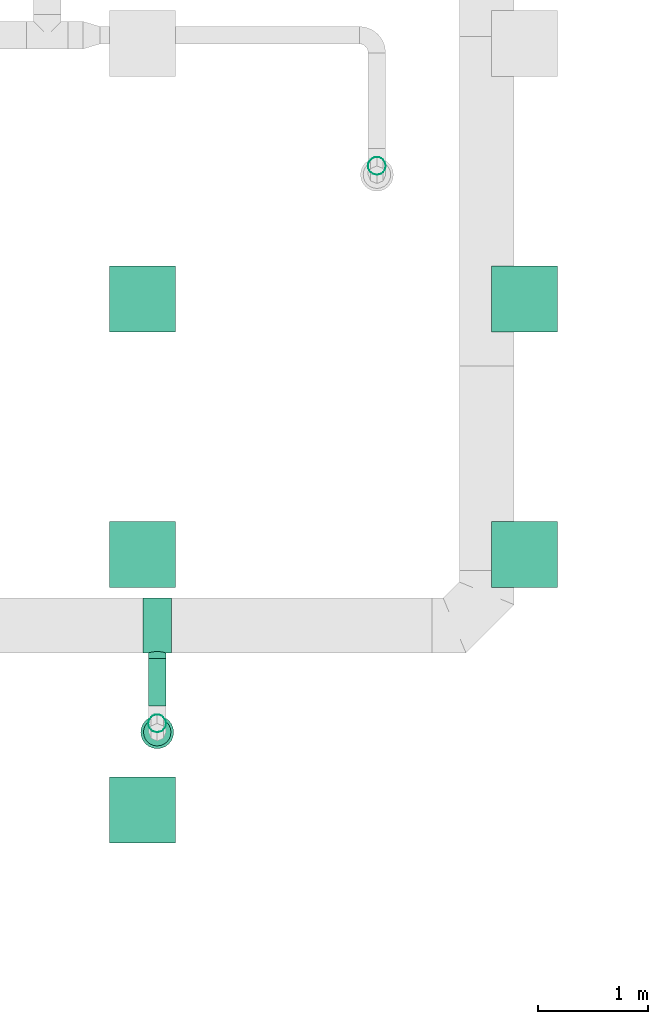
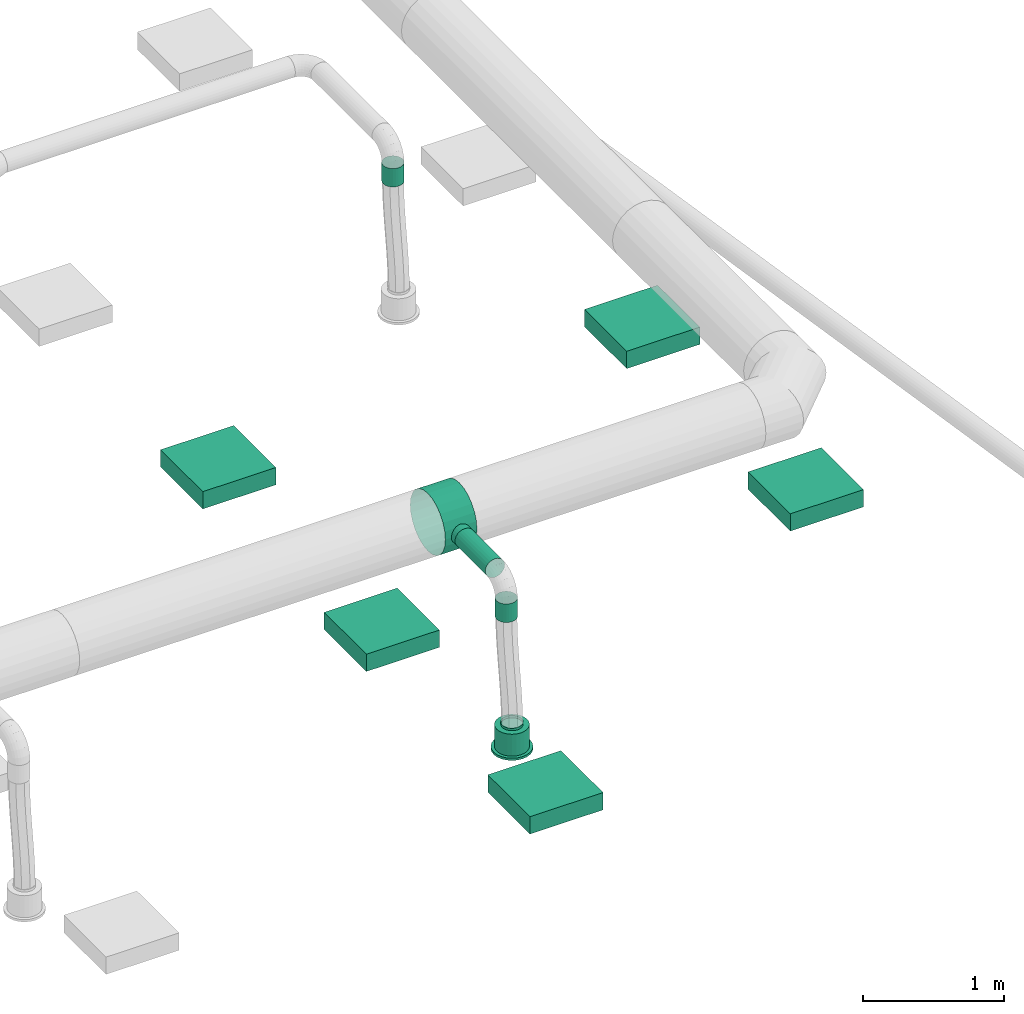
# One storey, part 182 of 374: 5 distribution elements, 3 flow segments, 1 flow fitting, 1 flow terminal.
"""IFC2X3 building model written with IfcOpenShell, lengths in metres."""

from ifc_helpers import new_model, si_unit, direction, frame, frame_2d, origin, place, context, subcontext, project, spatial, rectangle, extrude, open_shell, surface_model, source, transform, mapped, element, save


model = new_model("IFC2X3")

# Units and contexts
model_context = context("Model", 3, precision=1e-05, world=origin(), true_north=direction((-0.4480736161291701, 0.8939966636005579)))
body_context = subcontext(model_context, "Body", "Model", "MODEL_VIEW")
ifc_project = project(units=[si_unit("LENGTHUNIT", "METRE"), si_unit("AREAUNIT", "SQUARE_METRE"), si_unit("VOLUMEUNIT", "CUBIC_METRE"), si_unit("PLANEANGLEUNIT", "RADIAN"), si_unit("THERMODYNAMICTEMPERATUREUNIT", "KELVIN"), si_unit("MASSUNIT", "GRAM", prefix="KILO"), si_unit("TIMEUNIT", "SECOND")], contexts=[model_context])

# Site, building, storey
site_placement = place(None, origin())
site = spatial("IfcSite", under=ifc_project, at=site_placement, Name="Site 1", CompositionType="ELEMENT")
building_placement = place(site_placement, origin())
building = spatial("IfcBuilding", under=site, at=building_placement, Name="Undefined", CompositionType="ELEMENT")
storey_placement = place(building_placement, origin())
storey = spatial("IfcBuildingStorey", under=building, at=storey_placement, Name="Rez de chauss\x8ee", CompositionType="ELEMENT", Elevation=0.0)

# Flow terminal
shared_shape_1 = source(origin(), body_context, "Body", "SurfaceModel", [
    surface_model("IfcFaceBasedSurfaceModel", [(0.0, 0.0, 0.0), (0.03915785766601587, 0.0, 0.0), (0.03915785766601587, 0.020000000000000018, 0.0), (3.552713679e-15, 0.020000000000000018, 0.0), (0.07698144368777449, 0.0, -0.010134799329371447), (0.07698144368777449, 0.020000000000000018, -0.010134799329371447), (0.11089314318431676, 0.0, -0.02971372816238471), (0.11089314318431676, 0.020000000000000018, -0.02971372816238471), (0.13858192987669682, 0.0, -0.05740251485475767), (0.13858192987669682, 0.020000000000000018, -0.05740251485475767), (0.15816085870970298, 0.0, -0.09131421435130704), (0.15816085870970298, 0.020000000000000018, -0.09131421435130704), (0.16829565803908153, 0.0, -0.12913780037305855), (0.16829565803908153, 0.020000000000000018, -0.12913780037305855), (0.16829565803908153, 0.0, -0.16829565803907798), (0.16829565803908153, 0.020000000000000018, -0.16829565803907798), (0.15816085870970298, 0.0, -0.20611924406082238), (0.15816085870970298, 0.020000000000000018, -0.20611924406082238), (0.13858192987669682, 0.0, -0.24003094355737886), (0.13858192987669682, 0.020000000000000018, -0.24003094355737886), (0.11089314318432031, 0.0, -0.2677197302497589), (0.11089314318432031, 0.020000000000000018, -0.2677197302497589), (0.07698144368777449, 0.0, -0.2872986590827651), (0.07698144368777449, 0.020000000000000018, -0.2872986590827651), (0.039157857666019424, 0.0, -0.29743345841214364), (0.039157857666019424, 0.020000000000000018, -0.29743345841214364), (3.552713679e-15, 0.0, -0.29743345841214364), (3.552713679e-15, 0.020000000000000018, -0.29743345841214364), (-0.03782358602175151, 0.0, -0.2872986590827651), (-0.03782358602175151, 0.020000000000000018, -0.2872986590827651), (-0.07173528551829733, 0.0, -0.2677197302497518), (-0.07173528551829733, 0.020000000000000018, -0.2677197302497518), (-0.0994240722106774, 0.0, -0.24003094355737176), (-0.0994240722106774, 0.020000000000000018, -0.24003094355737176), (-0.11900300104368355, 0.0, -0.2061192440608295), (-0.11900300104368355, 0.020000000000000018, -0.2061192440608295), (-0.1291378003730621, 0.0, -0.16829565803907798), (-0.1291378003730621, 0.020000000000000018, -0.16829565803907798), (-0.1291378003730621, 0.0, -0.12913780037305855), (-0.1291378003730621, 0.020000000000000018, -0.12913780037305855), (-0.11900300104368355, 0.0, -0.09131421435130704), (-0.11900300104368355, 0.020000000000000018, -0.09131421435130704), (-0.0994240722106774, 0.0, -0.05740251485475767), (-0.0994240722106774, 0.020000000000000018, -0.05740251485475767), (-0.07173528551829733, 0.0, -0.029713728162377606), (-0.07173528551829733, 0.020000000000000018, -0.029713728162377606), (-0.03782358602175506, 0.0, -0.010134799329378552), (-0.03782358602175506, 0.020000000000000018, -0.010134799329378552), (0.019578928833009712, 0.0, -0.14871672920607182), (0.019578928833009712, 0.020000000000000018, -0.14871672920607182), (0.003263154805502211, 0.020000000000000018, -0.02478612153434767), (0.035894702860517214, 0.020000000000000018, -0.02478612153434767), (0.035894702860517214, 0.20999999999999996, -0.02478612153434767), (0.003263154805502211, 0.20999999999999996, -0.02478612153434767), (0.06741435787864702, 0.020000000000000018, -0.033231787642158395), (0.06741435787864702, 0.20999999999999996, -0.033231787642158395), (0.0956741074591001, 0.020000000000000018, -0.04954756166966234), (0.0956741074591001, 0.20999999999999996, -0.04954756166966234), (0.11874809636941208, 0.020000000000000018, -0.07262155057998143), (0.11874809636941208, 0.20999999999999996, -0.07262155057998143), (0.13506387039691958, 0.020000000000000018, -0.10088130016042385), (0.13506387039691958, 0.20999999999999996, -0.10088130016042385), (0.1435095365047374, 0.020000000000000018, -0.13240095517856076), (0.1435095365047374, 0.20999999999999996, -0.13240095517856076), (0.1435095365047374, 0.020000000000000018, -0.16503250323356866), (0.1435095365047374, 0.20999999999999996, -0.16503250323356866), (0.13506387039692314, 0.020000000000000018, -0.19655215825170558), (0.13506387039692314, 0.20999999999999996, -0.19655215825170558), (0.11874809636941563, 0.020000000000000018, -0.2248119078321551), (0.11874809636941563, 0.20999999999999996, -0.2248119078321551), (0.09567410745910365, 0.020000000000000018, -0.24788589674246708), (0.09567410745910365, 0.20999999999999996, -0.24788589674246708), (0.06741435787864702, 0.020000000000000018, -0.26420167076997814), (0.06741435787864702, 0.20999999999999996, -0.26420167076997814), (0.035894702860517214, 0.020000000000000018, -0.27264733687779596), (0.035894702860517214, 0.20999999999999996, -0.27264733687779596), (0.0032631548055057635, 0.020000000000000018, -0.27264733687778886), (0.0032631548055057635, 0.20999999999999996, -0.27264733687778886), (-0.028256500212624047, 0.020000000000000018, -0.26420167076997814), (-0.028256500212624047, 0.20999999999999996, -0.26420167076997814), (-0.05651624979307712, 0.020000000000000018, -0.2478858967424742), (-0.05651624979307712, 0.20999999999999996, -0.2478858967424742), (-0.07959023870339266, 0.020000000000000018, -0.2248119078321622), (-0.07959023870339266, 0.20999999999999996, -0.2248119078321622), (-0.09590601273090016, 0.020000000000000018, -0.19655215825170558), (-0.09590601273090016, 0.20999999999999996, -0.19655215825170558), (-0.10435167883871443, 0.020000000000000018, -0.16503250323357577), (-0.10435167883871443, 0.20999999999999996, -0.16503250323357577), (-0.10435167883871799, 0.020000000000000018, -0.13240095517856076), (-0.10435167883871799, 0.20999999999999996, -0.13240095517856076), (-0.09590601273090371, 0.020000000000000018, -0.10088130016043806), (-0.09590601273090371, 0.20999999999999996, -0.10088130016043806), (-0.07959023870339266, 0.020000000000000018, -0.07262155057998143), (-0.07959023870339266, 0.20999999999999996, -0.07262155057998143), (-0.056516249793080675, 0.020000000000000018, -0.04954756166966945), (-0.056516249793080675, 0.20999999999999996, -0.04954756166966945), (-0.028256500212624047, 0.020000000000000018, -0.033231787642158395), (-0.028256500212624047, 0.20999999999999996, -0.033231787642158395), (0.019578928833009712, 0.20999999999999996, -0.14871672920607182), (0.009136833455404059, 0.20999999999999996, -0.06940114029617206), (0.030021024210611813, 0.20999999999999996, -0.06940114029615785), (0.030021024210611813, 0.22999999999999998, -0.06940114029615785), (0.009136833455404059, 0.22999999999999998, -0.06940114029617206), (0.05019360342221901, 0.20999999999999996, -0.07480636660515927), (0.05019360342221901, 0.22999999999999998, -0.07480636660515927), (0.06827984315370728, 0.20999999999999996, -0.08524846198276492), (0.06827984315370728, 0.22999999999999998, -0.08524846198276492), (0.0830471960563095, 0.20999999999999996, -0.10001581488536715), (0.0830471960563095, 0.22999999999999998, -0.10001581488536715), (0.0934892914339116, 0.20999999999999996, -0.11810205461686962), (0.0934892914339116, 0.22999999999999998, -0.11810205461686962), (0.09889451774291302, 0.20999999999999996, -0.13827463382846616), (0.09889451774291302, 0.22999999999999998, -0.13827463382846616), (0.09889451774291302, 0.20999999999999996, -0.15915882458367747), (0.09889451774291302, 0.22999999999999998, -0.15915882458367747), (0.09348929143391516, 0.20999999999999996, -0.179331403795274), (0.09348929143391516, 0.22999999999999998, -0.179331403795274), (0.0830471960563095, 0.20999999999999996, -0.19741764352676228), (0.0830471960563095, 0.22999999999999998, -0.19741764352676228), (0.06827984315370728, 0.20999999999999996, -0.2121849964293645), (0.06827984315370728, 0.22999999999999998, -0.2121849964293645), (0.05019360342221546, 0.20999999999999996, -0.22262709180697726), (0.05019360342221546, 0.22999999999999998, -0.22262709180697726), (0.030021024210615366, 0.20999999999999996, -0.22803231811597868), (0.030021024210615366, 0.22999999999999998, -0.22803231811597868), (0.009136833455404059, 0.20999999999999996, -0.22803231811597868), (0.009136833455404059, 0.22999999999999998, -0.22803231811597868), (-0.011035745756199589, 0.20999999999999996, -0.22262709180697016), (-0.011035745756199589, 0.22999999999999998, -0.22262709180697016), (-0.0291219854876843, 0.20999999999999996, -0.2121849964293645), (-0.0291219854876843, 0.22999999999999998, -0.2121849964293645), (-0.043889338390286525, 0.20999999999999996, -0.19741764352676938), (-0.043889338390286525, 0.22999999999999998, -0.19741764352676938), (-0.05433143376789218, 0.20999999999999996, -0.17933140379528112), (-0.05433143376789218, 0.22999999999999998, -0.17933140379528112), (-0.05973666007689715, 0.20999999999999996, -0.15915882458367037), (-0.05973666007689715, 0.22999999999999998, -0.15915882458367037), (-0.0597366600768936, 0.20999999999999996, -0.13827463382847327), (-0.0597366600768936, 0.22999999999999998, -0.13827463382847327), (-0.05433143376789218, 0.20999999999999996, -0.11810205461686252), (-0.05433143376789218, 0.22999999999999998, -0.11810205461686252), (-0.043889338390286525, 0.20999999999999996, -0.10001581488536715), (-0.043889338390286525, 0.22999999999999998, -0.10001581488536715), (-0.02912198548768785, 0.20999999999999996, -0.08524846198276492), (-0.02912198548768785, 0.22999999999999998, -0.08524846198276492), (-0.011035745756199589, 0.20999999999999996, -0.07480636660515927), (-0.011035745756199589, 0.22999999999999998, -0.07480636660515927)], [open_shell([[[0, 1, 2, 3]], [[1, 4, 5, 2]], [[4, 6, 7, 5]], [[6, 8, 9, 7]], [[8, 10, 11, 9]], [[10, 12, 13, 11]], [[12, 14, 15, 13]], [[14, 16, 17, 15]], [[16, 18, 19, 17]], [[18, 20, 21, 19]], [[20, 22, 23, 21]], [[22, 24, 25, 23]], [[24, 26, 27, 25]], [[26, 28, 29, 27]], [[28, 30, 31, 29]], [[30, 32, 33, 31]], [[32, 34, 35, 33]], [[34, 36, 37, 35]], [[36, 38, 39, 37]], [[38, 40, 41, 39]], [[40, 42, 43, 41]], [[42, 44, 45, 43]], [[44, 46, 47, 45]], [[46, 0, 3, 47]], [[48, 1, 0]], [[48, 4, 1]], [[48, 6, 4]], [[48, 8, 6]], [[48, 10, 8]], [[48, 12, 10]], [[48, 14, 12]], [[48, 16, 14]], [[48, 18, 16]], [[48, 20, 18]], [[48, 22, 20]], [[48, 24, 22]], [[48, 26, 24]], [[48, 28, 26]], [[48, 30, 28]], [[48, 32, 30]], [[48, 34, 32]], [[48, 36, 34]], [[48, 38, 36]], [[48, 40, 38]], [[48, 42, 40]], [[48, 44, 42]], [[48, 46, 44]], [[48, 0, 46]], [[49, 47, 3]], [[49, 45, 47]], [[49, 43, 45]], [[49, 41, 43]], [[49, 39, 41]], [[49, 37, 39]], [[49, 35, 37]], [[49, 33, 35]], [[49, 31, 33]], [[49, 29, 31]], [[49, 27, 29]], [[49, 25, 27]], [[49, 23, 25]], [[49, 21, 23]], [[49, 19, 21]], [[49, 17, 19]], [[49, 15, 17]], [[49, 13, 15]], [[49, 11, 13]], [[49, 9, 11]], [[49, 7, 9]], [[49, 5, 7]], [[49, 2, 5]], [[49, 3, 2]], [[50, 51, 52, 53]], [[51, 54, 55, 52]], [[54, 56, 57, 55]], [[56, 58, 59, 57]], [[58, 60, 61, 59]], [[60, 62, 63, 61]], [[62, 64, 65, 63]], [[64, 66, 67, 65]], [[66, 68, 69, 67]], [[68, 70, 71, 69]], [[70, 72, 73, 71]], [[72, 74, 75, 73]], [[74, 76, 77, 75]], [[76, 78, 79, 77]], [[78, 80, 81, 79]], [[80, 82, 83, 81]], [[82, 84, 85, 83]], [[84, 86, 87, 85]], [[86, 88, 89, 87]], [[88, 90, 91, 89]], [[90, 92, 93, 91]], [[92, 94, 95, 93]], [[94, 96, 97, 95]], [[96, 50, 53, 97]], [[49, 51, 50]], [[49, 54, 51]], [[49, 56, 54]], [[49, 58, 56]], [[49, 60, 58]], [[49, 62, 60]], [[49, 64, 62]], [[49, 66, 64]], [[49, 68, 66]], [[49, 70, 68]], [[49, 72, 70]], [[49, 74, 72]], [[49, 76, 74]], [[49, 78, 76]], [[49, 80, 78]], [[49, 82, 80]], [[49, 84, 82]], [[49, 86, 84]], [[49, 88, 86]], [[49, 90, 88]], [[49, 92, 90]], [[49, 94, 92]], [[49, 96, 94]], [[49, 50, 96]], [[98, 97, 53]], [[98, 95, 97]], [[98, 93, 95]], [[98, 91, 93]], [[98, 89, 91]], [[98, 87, 89]], [[98, 85, 87]], [[98, 83, 85]], [[98, 81, 83]], [[98, 79, 81]], [[98, 77, 79]], [[98, 75, 77]], [[98, 73, 75]], [[98, 71, 73]], [[98, 69, 71]], [[98, 67, 69]], [[98, 65, 67]], [[98, 63, 65]], [[98, 61, 63]], [[98, 59, 61]], [[98, 57, 59]], [[98, 55, 57]], [[98, 52, 55]], [[98, 53, 52]], [[99, 100, 101, 102]], [[100, 103, 104, 101]], [[103, 105, 106, 104]], [[105, 107, 108, 106]], [[107, 109, 110, 108]], [[109, 111, 112, 110]], [[111, 113, 114, 112]], [[113, 115, 116, 114]], [[115, 117, 118, 116]], [[117, 119, 120, 118]], [[119, 121, 122, 120]], [[121, 123, 124, 122]], [[123, 125, 126, 124]], [[125, 127, 128, 126]], [[127, 129, 130, 128]], [[129, 131, 132, 130]], [[131, 133, 134, 132]], [[133, 135, 136, 134]], [[135, 137, 138, 136]], [[137, 139, 140, 138]], [[139, 141, 142, 140]], [[141, 143, 144, 142]], [[143, 145, 146, 144]], [[145, 99, 102, 146]]])]),
])
flow_terminal_placement = place(storey_placement, origin())
element("IfcFlowTerminal", 1, at=flow_terminal_placement, inside=storey, Name="Air diffuseur - bouche", ObjectType="Air diffuseur - bouche", context=body_context, shape_type="MappedRepresentation", body=[
    mapped(shared_shape_1, transform((62.290001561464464, 2.0299997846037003, 2.38), x_axis=(-0.9914448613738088, -0.13052619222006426, 0.0), y_axis=(0.0, 0.0, 1.0), z_axis=(-0.13052619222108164, 0.9914448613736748, 0.0))),
])

# Flow fitting
shared_shape_2 = source(origin(), body_context, "Body", "SurfaceModel", [
    surface_model("IfcFaceBasedSurfaceModel", [(0.0, 0.0652630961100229, -3.552713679e-15), (0.0, 0.0, 0.0), (0.2599999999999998, -7.105427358e-15, 0.0), (0.259999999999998, 0.06526309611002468, 0.0), (0.0, -0.06303931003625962, -0.01689133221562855), (0.259999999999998, -0.06303931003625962, -0.016891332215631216), (0.0, -0.11955880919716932, -0.049522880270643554), (0.259999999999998, -0.11955880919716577, -0.04952288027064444), (0.0, -0.1657067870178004, -0.09567085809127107), (0.259999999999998, -0.16570678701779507, -0.09567085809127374), (0.0, -0.1983383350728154, -0.15219035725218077), (0.259999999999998, -0.19833833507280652, -0.15219035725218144), (0.0, -0.2152296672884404, -0.2152296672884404), (0.259999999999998, -0.21522966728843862, -0.21522966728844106), (0.0, -0.2152296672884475, -0.28049276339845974), (0.259999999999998, -0.21522966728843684, -0.2804927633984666), (0.0, -0.1983383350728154, -0.3435320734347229), (0.259999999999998, -0.19833833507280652, -0.34353207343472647), (0.0, -0.1657067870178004, -0.4000515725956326), (0.259999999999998, -0.1657067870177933, -0.4000515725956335), (0.0, -0.11955880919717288, -0.44619955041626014), (0.259999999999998, -0.11955880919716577, -0.4461995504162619), (0.0, -0.06303931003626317, -0.47883109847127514), (0.259999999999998, -0.06303931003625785, -0.4788310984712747), (0.0, -7.105427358e-15, -0.49572243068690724), (0.259999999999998, 1.776356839e-15, -0.49572243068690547), (0.0, 0.0652630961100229, -0.4957224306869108), (0.259999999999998, 0.06526309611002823, -0.49572243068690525), (0.0, 0.12830240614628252, -0.47883109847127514), (0.259999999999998, 0.12830240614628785, -0.4788310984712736), (0.0, 0.18482190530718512, -0.4461995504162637), (0.259999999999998, 0.18482190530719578, -0.4461995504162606), (0.0, 0.2309698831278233, -0.4000515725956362), (0.259999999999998, 0.23096988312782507, -0.4000515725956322), (0.0, 0.26360143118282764, -0.34353207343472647), (0.259999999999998, 0.26360143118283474, -0.3435320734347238), (0.0, 0.2804927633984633, -0.2804927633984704), (0.259999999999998, 0.28049276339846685, -0.28049276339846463), (0.0, 0.28049276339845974, -0.2152296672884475), (0.259999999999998, 0.2804927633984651, -0.21522966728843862), (0.0, 0.2636014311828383, -0.15219035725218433), (0.259999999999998, 0.2636014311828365, -0.15219035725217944), (0.0, 0.2309698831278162, -0.09567085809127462), (0.259999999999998, 0.2309698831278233, -0.09567085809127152), (0.0, 0.18482190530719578, -0.049522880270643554), (0.259999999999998, 0.184821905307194, -0.04952288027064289), (0.0, 0.12830240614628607, -0.016891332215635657), (0.259999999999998, 0.12830240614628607, -0.01689133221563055), (0.21000000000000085, 0.28049276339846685, -0.28049276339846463), (0.2072740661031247, 0.276938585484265, -0.3009090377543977), (0.2072740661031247, 0.32736239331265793, -0.30754745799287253), (0.21000000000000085, 0.33006500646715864, -0.2870190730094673), (0.19928203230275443, 0.27207852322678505, -0.3197301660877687), (0.19928203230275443, 0.3248439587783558, -0.3266768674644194), (0.18656854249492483, 0.2666804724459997, -0.3357310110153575), (0.18656854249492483, 0.3226813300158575, -0.34310366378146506), (0.1700000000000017, 0.26174165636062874, -0.3479039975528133), (0.1700000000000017, 0.32102188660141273, -0.3557083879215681), (0.15070552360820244, 0.2582688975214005, -0.35550779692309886), (0.15070552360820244, 0.3199787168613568, -0.36363204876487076), (0.12999999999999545, 0.25701751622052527, -0.3580925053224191), (0.12999999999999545, 0.31962291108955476, -0.3663346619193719), (0.10929447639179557, 0.2582688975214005, -0.35550779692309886), (0.10929447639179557, 0.3199787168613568, -0.36363204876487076), (0.0899999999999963, 0.26174165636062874, -0.3479039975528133), (0.0899999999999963, 0.32102188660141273, -0.3557083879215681), (0.07343145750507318, 0.2666804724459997, -0.3357310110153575), (0.07343145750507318, 0.3226813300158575, -0.34310366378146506), (0.06071796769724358, 0.27207852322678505, -0.3197301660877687), (0.06071796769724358, 0.3248439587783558, -0.3266768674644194), (0.0527259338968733, 0.276938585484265, -0.3009090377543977), (0.0527259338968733, 0.32736239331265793, -0.30754745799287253), (0.04999999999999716, 0.28049276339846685, -0.28049276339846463), (0.04999999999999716, 0.33006500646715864, -0.2870190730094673), (0.0527259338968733, 0.2823438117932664, -0.2598522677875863), (0.0527259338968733, 0.33276761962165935, -0.26649068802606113), (0.06071796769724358, 0.28252061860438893, -0.24041457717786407), (0.06071796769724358, 0.3352860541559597, -0.24736127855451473), (0.07343145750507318, 0.28144782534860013, -0.22356182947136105), (0.07343145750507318, 0.337448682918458, -0.2309344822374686), (0.0899999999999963, 0.2798278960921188, -0.21052536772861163), (0.0899999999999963, 0.33910812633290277, -0.21832975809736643), (0.10929447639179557, 0.27844147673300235, -0.20228184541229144), (0.10929447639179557, 0.3401512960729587, -0.21040609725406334), (0.12999999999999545, 0.277901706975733, -0.19946132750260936), (0.12999999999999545, 0.3405071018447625, -0.20770348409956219), (0.15070552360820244, 0.27844147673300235, -0.20228184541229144), (0.15070552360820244, 0.3401512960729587, -0.21040609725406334), (0.1700000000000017, 0.2798278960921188, -0.21052536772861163), (0.1700000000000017, 0.33910812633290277, -0.21832975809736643), (0.18656854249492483, 0.28144782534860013, -0.22356182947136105), (0.18656854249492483, 0.337448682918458, -0.2309344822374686), (0.19928203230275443, 0.28252061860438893, -0.24041457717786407), (0.19928203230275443, 0.3352860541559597, -0.24736127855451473), (0.2072740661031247, 0.2823438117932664, -0.2598522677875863), (0.2072740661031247, 0.33276761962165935, -0.26649068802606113)], [open_shell([[[0, 1, 2, 3]], [[1, 4, 5, 2]], [[4, 6, 7, 5]], [[6, 8, 9, 7]], [[8, 10, 11, 9]], [[10, 12, 13, 11]], [[12, 14, 15, 13]], [[14, 16, 17, 15]], [[16, 18, 19, 17]], [[18, 20, 21, 19]], [[20, 22, 23, 21]], [[22, 24, 25, 23]], [[24, 26, 27, 25]], [[26, 28, 29, 27]], [[28, 30, 31, 29]], [[30, 32, 33, 31]], [[32, 34, 35, 33]], [[34, 36, 37, 35]], [[36, 38, 39, 37]], [[38, 40, 41, 39]], [[40, 42, 43, 41]], [[42, 44, 45, 43]], [[44, 46, 47, 45]], [[46, 0, 3, 47]], [[48, 49, 50, 51]], [[49, 52, 53, 50]], [[52, 54, 55, 53]], [[54, 56, 57, 55]], [[56, 58, 59, 57]], [[58, 60, 61, 59]], [[60, 62, 63, 61]], [[62, 64, 65, 63]], [[64, 66, 67, 65]], [[66, 68, 69, 67]], [[68, 70, 71, 69]], [[70, 72, 73, 71]], [[72, 74, 75, 73]], [[74, 76, 77, 75]], [[76, 78, 79, 77]], [[78, 80, 81, 79]], [[80, 82, 83, 81]], [[82, 84, 85, 83]], [[84, 86, 87, 85]], [[86, 88, 89, 87]], [[88, 90, 91, 89]], [[90, 92, 93, 91]], [[92, 94, 95, 93]], [[94, 48, 51, 95]]])]),
])
flow_fitting_placement = place(storey_placement, origin())
element("IfcFlowFitting", 2, at=flow_fitting_placement, inside=storey, Name="Pièce en té 90°", ObjectType="Pièce en té 90°", context=body_context, shape_type="MappedRepresentation", body=[
    mapped(shared_shape_2, transform((62.42000156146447, 2.916002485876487, 4.041481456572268), x_axis=(-1.0, 0.0, 0.0), y_axis=(7.266545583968e-12, -0.9914448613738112, 0.13052619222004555), z_axis=(0.0, 0.13052619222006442, 0.9914448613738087))),
])

# Flow segments
shared_shape_3 = source(origin(), body_context, "Body", "SurfaceModel", [
    surface_model("IfcFaceBasedSurfaceModel", [(0.0, 0.020884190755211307, 0.0), (0.0, 0.0, 0.0), (0.16000000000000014, 0.0, -4.4408921e-16), (0.16000000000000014, 0.0208841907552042, -4.4408921e-16), (0.0, -0.020172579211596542, -0.005405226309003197), (0.16000000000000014, -0.020172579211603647, -0.005405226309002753), (0.0, -0.03825881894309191, -0.015847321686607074), (0.16000000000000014, -0.03825881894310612, -0.015847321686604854), (0.0, -0.05302617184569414, -0.0306146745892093), (0.16000000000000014, -0.05302617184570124, -0.03061467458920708), (0.0, -0.06346826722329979, -0.04870091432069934), (0.16000000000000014, -0.0634682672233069, -0.04870091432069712), (0.0, -0.06887349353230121, -0.06887349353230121), (0.16000000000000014, -0.06887349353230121, -0.06887349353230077), (0.0, -0.06887349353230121, -0.08975768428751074), (0.16000000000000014, -0.06887349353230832, -0.08975768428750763), (0.0, -0.06346826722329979, -0.10993026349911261), (0.16000000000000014, -0.0634682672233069, -0.10993026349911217), (0.0, -0.05302617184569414, -0.12801650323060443), (0.16000000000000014, -0.05302617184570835, -0.1280165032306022), (0.0, -0.038258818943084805, -0.14278385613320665), (0.16000000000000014, -0.03825881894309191, -0.14278385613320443), (0.0, -0.020172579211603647, -0.15322595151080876), (0.16000000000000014, -0.020172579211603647, -0.1532259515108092), (0.0, 7.105427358e-15, -0.15863117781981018), (0.16000000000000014, -7.105427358e-15, -0.15863117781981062), (0.0, 0.020884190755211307, -0.15863117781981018), (0.16000000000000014, 0.0208841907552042, -0.15863117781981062), (0.0, 0.04105676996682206, -0.15322595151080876), (0.16000000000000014, 0.04105676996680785, -0.1532259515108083), (0.0, 0.05914300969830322, -0.1427838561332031), (0.16000000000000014, 0.05914300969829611, -0.14278385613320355), (0.0, 0.07391036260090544, -0.12801650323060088), (0.16000000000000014, 0.07391036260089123, -0.1280165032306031), (0.0, 0.0843524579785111, -0.10993026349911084), (0.16000000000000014, 0.08435245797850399, -0.10993026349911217), (0.0, 0.08975768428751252, -0.08975768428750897), (0.16000000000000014, 0.08975768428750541, -0.08975768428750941), (0.0, 0.08975768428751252, -0.06887349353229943), (0.16000000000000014, 0.08975768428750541, -0.06887349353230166), (0.0, 0.0843524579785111, -0.048700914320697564), (0.16000000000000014, 0.08435245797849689, -0.04870091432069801), (0.0, 0.07391036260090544, -0.030614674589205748), (0.16000000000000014, 0.07391036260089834, -0.03061467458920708), (0.0, 0.05914300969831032, -0.015847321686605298), (0.16000000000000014, 0.05914300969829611, -0.01584732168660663), (0.0, 0.04105676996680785, -0.005405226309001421), (0.16000000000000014, 0.04105676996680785, -0.005405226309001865)], [open_shell([[[0, 1, 2, 3]], [[1, 4, 5, 2]], [[4, 6, 7, 5]], [[6, 8, 9, 7]], [[8, 10, 11, 9]], [[10, 12, 13, 11]], [[12, 14, 15, 13]], [[14, 16, 17, 15]], [[16, 18, 19, 17]], [[18, 20, 21, 19]], [[20, 22, 23, 21]], [[22, 24, 25, 23]], [[24, 26, 27, 25]], [[26, 28, 29, 27]], [[28, 30, 31, 29]], [[30, 32, 33, 31]], [[32, 34, 35, 33]], [[34, 36, 37, 35]], [[36, 38, 39, 37]], [[38, 40, 41, 39]], [[40, 42, 43, 41]], [[42, 44, 45, 43]], [[44, 46, 47, 45]], [[46, 0, 3, 47]]])]),
])
flow_segment_1_placement = place(storey_placement, origin())
element("IfcFlowSegment", 3, at=flow_segment_1_placement, inside=storey, Name="Tube", ObjectType="Tube", context=body_context, shape_type="MappedRepresentation", body=[
    mapped(shared_shape_3, transform((64.2693045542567, 7.112272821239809, 3.4800000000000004), x_axis=(0.0, 0.0, 1.0), y_axis=(0.9914448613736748, 0.13052619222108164, 0.0), z_axis=(-0.13052619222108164, 0.9914448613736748, 0.0))),
])
flow_segment_2_placement = place(storey_placement, origin())
element("IfcFlowSegment", 4, at=flow_segment_2_placement, inside=storey, Name="Tube", ObjectType="Tube", context=body_context, shape_type="MappedRepresentation", body=[
    mapped(shared_shape_3, transform((62.269296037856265, 2.0372738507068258, 3.4800000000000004), x_axis=(0.0, 0.0, 1.0), y_axis=(0.9914448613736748, 0.13052619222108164, 0.0), z_axis=(-0.13052619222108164, 0.9914448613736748, 0.0))),
])
shared_shape_4 = source(origin(), body_context, "Body", "SurfaceModel", [
    surface_model("IfcFaceBasedSurfaceModel", [(0.0, 0.020884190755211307, 0.0), (0.0, 0.0, 0.0), (0.4312979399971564, -7.105427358e-15, -8.8817842e-16), (0.4312979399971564, 0.0208841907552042, -8.8817842e-16), (0.0, -0.020172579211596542, -0.005405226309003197), (0.4312979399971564, -0.020172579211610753, -0.005405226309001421), (0.0, -0.03825881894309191, -0.015847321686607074), (0.4312979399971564, -0.03825881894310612, -0.015847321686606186), (0.0, -0.05302617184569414, -0.0306146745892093), (0.4312979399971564, -0.05302617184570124, -0.030614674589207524), (0.0, -0.06346826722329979, -0.04870091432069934), (0.4312979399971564, -0.0634682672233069, -0.04870091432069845), (0.0, -0.06887349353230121, -0.06887349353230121), (0.4312979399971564, -0.06887349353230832, -0.06887349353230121), (0.0, -0.06887349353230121, -0.08975768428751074), (0.4312979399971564, -0.06887349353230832, -0.08975768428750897), (0.0, -0.06346826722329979, -0.10993026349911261), (0.4312979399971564, -0.0634682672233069, -0.10993026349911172), (0.0, -0.05302617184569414, -0.12801650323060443), (0.4312979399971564, -0.05302617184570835, -0.12801650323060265), (0.0, -0.038258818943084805, -0.14278385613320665), (0.4312979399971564, -0.038258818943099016, -0.1427838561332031), (0.0, -0.020172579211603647, -0.15322595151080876), (0.4312979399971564, -0.020172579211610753, -0.15322595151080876), (0.0, 7.105427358e-15, -0.15863117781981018), (0.4312979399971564, -7.105427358e-15, -0.15863117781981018), (0.0, 0.020884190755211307, -0.15863117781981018), (0.4312979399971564, 0.0208841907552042, -0.15863117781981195), (0.0, 0.04105676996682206, -0.15322595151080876), (0.4312979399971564, 0.041056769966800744, -0.15322595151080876), (0.0, 0.05914300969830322, -0.1427838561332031), (0.4312979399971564, 0.05914300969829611, -0.14278385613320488), (0.0, 0.07391036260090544, -0.12801650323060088), (0.4312979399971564, 0.07391036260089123, -0.12801650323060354), (0.0, 0.0843524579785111, -0.10993026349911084), (0.4312979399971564, 0.08435245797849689, -0.10993026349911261), (0.0, 0.08975768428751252, -0.08975768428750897), (0.4312979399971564, 0.08975768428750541, -0.08975768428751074), (0.0, 0.08975768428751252, -0.06887349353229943), (0.4312979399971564, 0.08975768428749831, -0.0688734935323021), (0.0, 0.0843524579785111, -0.048700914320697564), (0.4312979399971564, 0.08435245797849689, -0.04870091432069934), (0.0, 0.07391036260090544, -0.030614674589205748), (0.4312979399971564, 0.07391036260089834, -0.030614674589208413), (0.0, 0.05914300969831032, -0.015847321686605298), (0.4312979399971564, 0.059143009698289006, -0.015847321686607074), (0.0, 0.04105676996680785, -0.005405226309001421), (0.4312979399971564, 0.04105676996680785, -0.005405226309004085)], [open_shell([[[0, 1, 2, 3]], [[1, 4, 5, 2]], [[4, 6, 7, 5]], [[6, 8, 9, 7]], [[8, 10, 11, 9]], [[10, 12, 13, 11]], [[12, 14, 15, 13]], [[14, 16, 17, 15]], [[16, 18, 19, 17]], [[18, 20, 21, 19]], [[20, 22, 23, 21]], [[22, 24, 25, 23]], [[24, 26, 27, 25]], [[26, 28, 29, 27]], [[28, 30, 31, 29]], [[30, 32, 33, 31]], [[32, 34, 35, 33]], [[34, 36, 37, 35]], [[36, 38, 39, 37]], [[38, 40, 41, 39]], [[40, 42, 43, 41]], [[42, 44, 45, 43]], [[44, 46, 47, 45]], [[46, 0, 3, 47]]])]),
])
flow_segment_3_placement = place(storey_placement, origin())
element("IfcFlowSegment", 5, at=flow_segment_3_placement, inside=storey, Name="Tube", ObjectType="Tube", context=body_context, shape_type="MappedRepresentation", body=[
    mapped(shared_shape_4, transform((62.269296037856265, 2.551297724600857, 3.877274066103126), x_axis=(0.0, -1.0, 0.0), y_axis=(0.9914448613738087, 0.0, 0.13052619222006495), z_axis=(-0.13052619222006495, 0.0, 0.9914448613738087))),
])

# Distribution elements
distribution_element_1_placement = place(storey_placement, origin())
element("IfcDistributionElement", 6, at=distribution_element_1_placement, inside=storey, Name="Decken-Rechteckleuchte mit Rahmen AP", ObjectType="Decken-Rechteckleuchte mit Rahmen AP", context=body_context, shape_type="SweptSolid", body=[
    extrude(rectangle(XDim=0.6000000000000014, YDim=0.6000000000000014, at=frame_2d((3.552713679e-15, 0.0), x_axis=(0.0, 1.0))), frame((65.63490057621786, 3.4978411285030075, 2.5500000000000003), z_axis=(0.0, 0.0, -1.0), x_axis=(1.0, 0.0, 0.0)), (0.0, 0.0, 1.0), 0.15),
])
distribution_element_2_placement = place(storey_placement, origin())
element("IfcDistributionElement", 7, at=distribution_element_2_placement, inside=storey, Name="Decken-Rechteckleuchte mit Rahmen AP", ObjectType="Decken-Rechteckleuchte mit Rahmen AP", context=body_context, shape_type="SweptSolid", body=[
    extrude(rectangle(XDim=0.6000000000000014, YDim=0.6000000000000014, at=frame_2d((3.552713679e-15, 0.0), x_axis=(0.0, 1.0))), frame((65.63490057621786, 5.822841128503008, 2.5500000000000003), z_axis=(0.0, 0.0, -1.0), x_axis=(1.0, 0.0, 0.0)), (0.0, 0.0, 1.0), 0.15),
])
distribution_element_3_placement = place(storey_placement, origin())
element("IfcDistributionElement", 8, at=distribution_element_3_placement, inside=storey, Name="Decken-Rechteckleuchte mit Rahmen AP", ObjectType="Decken-Rechteckleuchte mit Rahmen AP", context=body_context, shape_type="SweptSolid", body=[
    extrude(rectangle(XDim=0.6000000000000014, YDim=0.6000000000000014, at=frame_2d((3.552713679e-15, 0.0), x_axis=(0.0, 1.0))), frame((62.15654034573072, 3.4978411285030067, 2.5500000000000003), z_axis=(0.0, 0.0, -1.0), x_axis=(1.0, 0.0, 0.0)), (0.0, 0.0, 1.0), 0.15),
])
distribution_element_4_placement = place(storey_placement, origin())
element("IfcDistributionElement", 9, at=distribution_element_4_placement, inside=storey, Name="Decken-Rechteckleuchte mit Rahmen AP", ObjectType="Decken-Rechteckleuchte mit Rahmen AP", context=body_context, shape_type="SweptSolid", body=[
    extrude(rectangle(XDim=0.6000000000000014, YDim=0.6000000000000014, at=frame_2d((3.552713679e-15, 0.0), x_axis=(0.0, 1.0))), frame((62.15654034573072, 5.822841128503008, 2.5500000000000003), z_axis=(0.0, 0.0, -1.0), x_axis=(1.0, 0.0, 0.0)), (0.0, 0.0, 1.0), 0.15),
])
distribution_element_5_placement = place(storey_placement, origin())
element("IfcDistributionElement", 10, at=distribution_element_5_placement, inside=storey, Name="Decken-Rechteckleuchte mit Rahmen AP", ObjectType="Decken-Rechteckleuchte mit Rahmen AP", context=body_context, shape_type="SweptSolid", body=[
    extrude(rectangle(XDim=0.6000000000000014, YDim=0.6000000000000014, at=frame_2d((3.552713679e-15, 0.0), x_axis=(0.0, 1.0))), frame((62.15654034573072, 1.172841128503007, 2.5500000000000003), z_axis=(0.0, 0.0, -1.0), x_axis=(1.0, 0.0, 0.0)), (0.0, 0.0, 1.0), 0.15),
])

save(model, "model.ifc")
